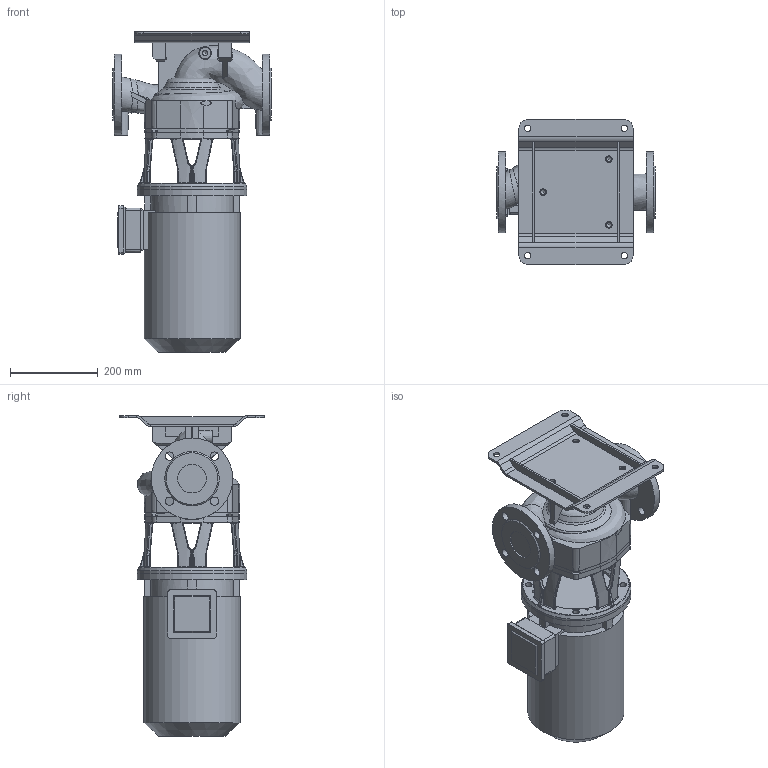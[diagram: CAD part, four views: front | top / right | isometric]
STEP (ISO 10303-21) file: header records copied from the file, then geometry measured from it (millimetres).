
FILE_DESCRIPTION (( 'STEP AP203' ), '1' );
FILE_NAME ('KI65-145_2_4kW.STEP', '2024-07-26T08:09:45', ( '' ), ( '' ), 'SwSTEP 2.0', 'SolidWorks 2023', '' );
FILE_SCHEMA (( 'CONFIG_CONTROL_DESIGN' ));
Length unit declared in the file: millimetre
Products named in the file (11): 230033; 230405; 230031; 480130_solid; 230034; 230496; 230404; 230497; 220495; 220494; KI65-145_2_4kW
Assembly tree (11 placements, depth 3):
  KI65-145_2_4kW
    230405
      230404
    230497
      230496
    220495
      220494
    230034
      230031
      230033  x2
    480130_solid
Bounding box: 360 x 330.18 x 730.3 mm (x, y, z)
Volume: 22797934 mm3; surface area: 1251373.3 mm2
Topology: 7 solids, 7 shells, 899 faces, 2321 edges, 1400 vertices
Faces by surface type: plane 282, cylinder 271, bspline 196, torus 81, cone 55, sphere 14
Full cylindrical faces by diameter (mm): 5 x4, 6 x3, 6.8 x4, 7 x8, 10.2 x7, 11.8 x4, 14 x4, 14.5 x7, 15 x8, 19 x8, 65 x2, 147 x1, 151 x1, 180 x1, 189 x1, 219 x1, 250 x2
Entity records: 45109 total; most frequent: CARTESIAN_POINT 24541, ORIENTED_EDGE 4228, DIRECTION 3741, EDGE_CURVE 2114, AXIS2_PLACEMENT_3D 1486, VERTEX_POINT 1332, EDGE_LOOP 1084, FACE_OUTER_BOUND 958
